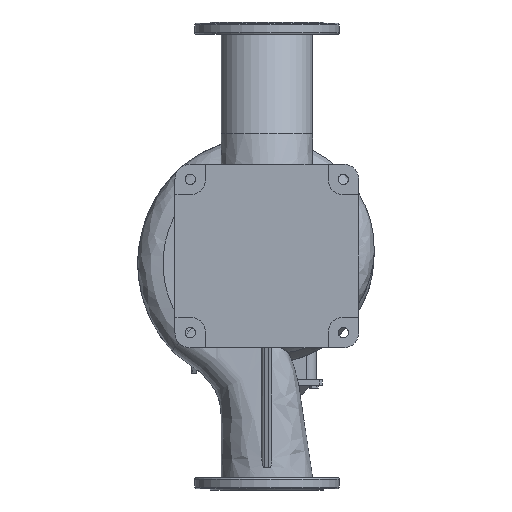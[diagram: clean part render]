
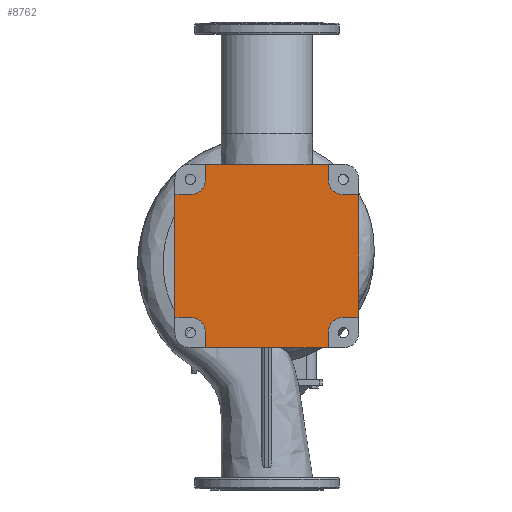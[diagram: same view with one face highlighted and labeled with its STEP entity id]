
A CAD part, front view. The second image highlights one B-rep face of the part: STEP entity #8762.
In plain terms, the highlighted planar face has unit normal (0, -1, 0).
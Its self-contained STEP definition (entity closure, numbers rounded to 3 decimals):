
#141 = ORIENTED_EDGE ( 'NONE', *, *, #16764, .T. ) ;
#540 = CARTESIAN_POINT ( 'NONE',  ( -216., -265., -144. ) ) ;
#648 = VECTOR ( 'NONE', #9492, 1000. ) ;
#1222 = EDGE_CURVE ( 'NONE', #72902, #64871, #8562, .T. ) ;
#1478 = ORIENTED_EDGE ( 'NONE', *, *, #46958, .T. ) ;
#2044 = CARTESIAN_POINT ( 'NONE',  ( -144., -265., 180. ) ) ;
#2209 = CARTESIAN_POINT ( 'NONE',  ( 144., -265., -180. ) ) ;
#2409 = DIRECTION ( 'NONE',  ( 0., 0., -1. ) ) ;
#2689 = DIRECTION ( 'NONE',  ( 1., 0., 0. ) ) ;
#2863 = ORIENTED_EDGE ( 'NONE', *, *, #48395, .T. ) ;
#3272 = LINE ( 'NONE', #14905, #3422 ) ;
#3422 = VECTOR ( 'NONE', #55136, 1000. ) ;
#4031 = ORIENTED_EDGE ( 'NONE', *, *, #42637, .T. ) ;
#4247 = CARTESIAN_POINT ( 'NONE',  ( -180., -265., -144. ) ) ;
#4463 = VECTOR ( 'NONE', #64772, 1000. ) ;
#5236 = VERTEX_POINT ( 'NONE', #66631 ) ;
#5744 = DIRECTION ( 'NONE',  ( 0., 0., 1. ) ) ;
#7208 = CIRCLE ( 'NONE', #51654, 36. ) ;
#7568 = LINE ( 'NONE', #30151, #65415 ) ;
#8148 = CARTESIAN_POINT ( 'NONE',  ( -144., -265., -180. ) ) ;
#8562 = LINE ( 'NONE', #2209, #65168 ) ;
#8762 = ADVANCED_FACE ( 'NONE', ( #53383 ), #63898, .F. ) ;
#8951 = VECTOR ( 'NONE', #70892, 1000. ) ;
#9184 = DIRECTION ( 'NONE',  ( -1., 0., 0. ) ) ;
#9423 = CARTESIAN_POINT ( 'NONE',  ( 180., -265., 180. ) ) ;
#9492 = DIRECTION ( 'NONE',  ( 1., 0., 0. ) ) ;
#9500 = ORIENTED_EDGE ( 'NONE', *, *, #50836, .T. ) ;
#9916 = CIRCLE ( 'NONE', #56772, 36. ) ;
#11393 = DIRECTION ( 'NONE',  ( 0., 1., 0. ) ) ;
#11773 = AXIS2_PLACEMENT_3D ( 'NONE', #9423, #45126, #22175 ) ;
#12019 = EDGE_CURVE ( 'NONE', #17715, #5236, #37479, .T. ) ;
#12107 = CARTESIAN_POINT ( 'NONE',  ( -216., -265., -144. ) ) ;
#12406 = DIRECTION ( 'NONE',  ( 1., 0., 0. ) ) ;
#12974 = CARTESIAN_POINT ( 'NONE',  ( 144., -265., -216. ) ) ;
#13169 = VERTEX_POINT ( 'NONE', #26772 ) ;
#13557 = CARTESIAN_POINT ( 'NONE',  ( -180., -265., 144. ) ) ;
#13855 = DIRECTION ( 'NONE',  ( 0., 0., 1. ) ) ;
#14590 = DIRECTION ( 'NONE',  ( 0., 0., 1. ) ) ;
#14812 = EDGE_CURVE ( 'NONE', #48509, #39281, #62266, .T. ) ;
#14863 = CARTESIAN_POINT ( 'NONE',  ( 216., -265., -144. ) ) ;
#14905 = CARTESIAN_POINT ( 'NONE',  ( 144., -265., 180. ) ) ;
#15273 = CARTESIAN_POINT ( 'NONE',  ( 144., -265., 180. ) ) ;
#16764 = EDGE_CURVE ( 'NONE', #13169, #46305, #35131, .T. ) ;
#17314 = ORIENTED_EDGE ( 'NONE', *, *, #61451, .T. ) ;
#17715 = VERTEX_POINT ( 'NONE', #54300 ) ;
#18176 = CARTESIAN_POINT ( 'NONE',  ( -144., -265., 180. ) ) ;
#18386 = CARTESIAN_POINT ( 'NONE',  ( -180., -265., 180. ) ) ;
#18787 = CARTESIAN_POINT ( 'NONE',  ( -180., -265., -180. ) ) ;
#18913 = LINE ( 'NONE', #540, #56842 ) ;
#19600 = EDGE_CURVE ( 'NONE', #5236, #72902, #30933, .T. ) ;
#19620 = VECTOR ( 'NONE', #9184, 1000. ) ;
#19962 = AXIS2_PLACEMENT_3D ( 'NONE', #18787, #59022, #12406 ) ;
#20333 = CARTESIAN_POINT ( 'NONE',  ( -216., -265., 144. ) ) ;
#21491 = VERTEX_POINT ( 'NONE', #12107 ) ;
#21509 = LINE ( 'NONE', #4247, #648 ) ;
#21764 = ORIENTED_EDGE ( 'NONE', *, *, #50742, .T. ) ;
#21925 = AXIS2_PLACEMENT_3D ( 'NONE', #39964, #22280, #5744 ) ;
#22175 = DIRECTION ( 'NONE',  ( 0., 0., 1. ) ) ;
#22280 = DIRECTION ( 'NONE',  ( 0., 1., 0. ) ) ;
#23049 = CARTESIAN_POINT ( 'NONE',  ( -180., -265., -180. ) ) ;
#23895 = VECTOR ( 'NONE', #38221, 1000. ) ;
#26772 = CARTESIAN_POINT ( 'NONE',  ( -144., -265., 216. ) ) ;
#27779 = ORIENTED_EDGE ( 'NONE', *, *, #65308, .T. ) ;
#30151 = CARTESIAN_POINT ( 'NONE',  ( 180., -265., 144. ) ) ;
#30315 = CARTESIAN_POINT ( 'NONE',  ( -144., -265., 216. ) ) ;
#30933 = LINE ( 'NONE', #53871, #4463 ) ;
#31513 = DIRECTION ( 'NONE',  ( 0., 1., 0. ) ) ;
#31779 = LINE ( 'NONE', #30315, #8951 ) ;
#31975 = CARTESIAN_POINT ( 'NONE',  ( 180., -265., -144. ) ) ;
#32194 = ORIENTED_EDGE ( 'NONE', *, *, #14812, .T. ) ;
#32510 = CARTESIAN_POINT ( 'NONE',  ( -180., -265., 144. ) ) ;
#33094 = CARTESIAN_POINT ( 'NONE',  ( 216., -265., 144. ) ) ;
#35131 = LINE ( 'NONE', #2044, #57000 ) ;
#35783 = DIRECTION ( 'NONE',  ( -1., 0., 0. ) ) ;
#36295 = VERTEX_POINT ( 'NONE', #31975 ) ;
#37479 = LINE ( 'NONE', #8148, #23895 ) ;
#38221 = DIRECTION ( 'NONE',  ( 0., 0., -1. ) ) ;
#39281 = VERTEX_POINT ( 'NONE', #33094 ) ;
#39964 = CARTESIAN_POINT ( 'NONE',  ( 180., -265., -180. ) ) ;
#41257 = VERTEX_POINT ( 'NONE', #52832 ) ;
#41696 = ORIENTED_EDGE ( 'NONE', *, *, #73213, .T. ) ;
#41813 = CARTESIAN_POINT ( 'NONE',  ( 180., -265., -144. ) ) ;
#42637 = EDGE_CURVE ( 'NONE', #46305, #64469, #7208, .T. ) ;
#43418 = LINE ( 'NONE', #32510, #19620 ) ;
#45126 = DIRECTION ( 'NONE',  ( 0., 1., 0. ) ) ;
#45987 = DIRECTION ( 'NONE',  ( 0., 0., 1. ) ) ;
#46305 = VERTEX_POINT ( 'NONE', #18176 ) ;
#46958 = EDGE_CURVE ( 'NONE', #52732, #21491, #18913, .T. ) ;
#47281 = ORIENTED_EDGE ( 'NONE', *, *, #63163, .T. ) ;
#47527 = ORIENTED_EDGE ( 'NONE', *, *, #19600, .T. ) ;
#47673 = VERTEX_POINT ( 'NONE', #60640 ) ;
#47792 = CIRCLE ( 'NONE', #11773, 36. ) ;
#48395 = EDGE_CURVE ( 'NONE', #47673, #13169, #31779, .T. ) ;
#48509 = VERTEX_POINT ( 'NONE', #14863 ) ;
#50742 = EDGE_CURVE ( 'NONE', #36295, #48509, #52713, .T. ) ;
#50836 = EDGE_CURVE ( 'NONE', #39281, #53780, #7568, .T. ) ;
#51006 = CARTESIAN_POINT ( 'NONE',  ( 216., -265., 144. ) ) ;
#51654 = AXIS2_PLACEMENT_3D ( 'NONE', #18386, #31513, #13855 ) ;
#51719 = CARTESIAN_POINT ( 'NONE',  ( 180., -265., 144. ) ) ;
#52713 = LINE ( 'NONE', #41813, #69011 ) ;
#52732 = VERTEX_POINT ( 'NONE', #20333 ) ;
#52832 = CARTESIAN_POINT ( 'NONE',  ( -180., -265., -144. ) ) ;
#52900 = EDGE_CURVE ( 'NONE', #53780, #53629, #47792, .T. ) ;
#53383 = FACE_OUTER_BOUND ( 'NONE', #70888, .T. ) ;
#53629 = VERTEX_POINT ( 'NONE', #15273 ) ;
#53683 = EDGE_CURVE ( 'NONE', #53629, #47673, #3272, .T. ) ;
#53780 = VERTEX_POINT ( 'NONE', #51719 ) ;
#53871 = CARTESIAN_POINT ( 'NONE',  ( 144., -265., -216. ) ) ;
#54300 = CARTESIAN_POINT ( 'NONE',  ( -144., -265., -180. ) ) ;
#54609 = ORIENTED_EDGE ( 'NONE', *, *, #12019, .T. ) ;
#55136 = DIRECTION ( 'NONE',  ( 0., 0., 1. ) ) ;
#56642 = DIRECTION ( 'NONE',  ( 0., 0., 1. ) ) ;
#56772 = AXIS2_PLACEMENT_3D ( 'NONE', #23049, #11393, #45987 ) ;
#56842 = VECTOR ( 'NONE', #69311, 1000. ) ;
#57000 = VECTOR ( 'NONE', #2409, 1000. ) ;
#58263 = VECTOR ( 'NONE', #56642, 1000. ) ;
#59022 = DIRECTION ( 'NONE',  ( 0., 1., 0. ) ) ;
#60640 = CARTESIAN_POINT ( 'NONE',  ( 144., -265., 216. ) ) ;
#61451 = EDGE_CURVE ( 'NONE', #64871, #36295, #71157, .T. ) ;
#62266 = LINE ( 'NONE', #51006, #58263 ) ;
#63163 = EDGE_CURVE ( 'NONE', #64469, #52732, #43418, .T. ) ;
#63898 = PLANE ( 'NONE',  #19962 ) ;
#64469 = VERTEX_POINT ( 'NONE', #13557 ) ;
#64772 = DIRECTION ( 'NONE',  ( 1., 0., 0. ) ) ;
#64871 = VERTEX_POINT ( 'NONE', #72752 ) ;
#65168 = VECTOR ( 'NONE', #14590, 1000. ) ;
#65308 = EDGE_CURVE ( 'NONE', #21491, #41257, #21509, .T. ) ;
#65415 = VECTOR ( 'NONE', #35783, 1000. ) ;
#66631 = CARTESIAN_POINT ( 'NONE',  ( -144., -265., -216. ) ) ;
#67109 = ORIENTED_EDGE ( 'NONE', *, *, #52900, .T. ) ;
#69011 = VECTOR ( 'NONE', #2689, 1000. ) ;
#69311 = DIRECTION ( 'NONE',  ( 0., 0., -1. ) ) ;
#70888 = EDGE_LOOP ( 'NONE', ( #41696, #54609, #47527, #73452, #17314, #21764, #32194, #9500, #67109, #74325, #2863, #141, #4031, #47281, #1478, #27779 ) ) ;
#70892 = DIRECTION ( 'NONE',  ( -1., 0., 0. ) ) ;
#71157 = CIRCLE ( 'NONE', #21925, 36. ) ;
#72752 = CARTESIAN_POINT ( 'NONE',  ( 144., -265., -180. ) ) ;
#72902 = VERTEX_POINT ( 'NONE', #12974 ) ;
#73213 = EDGE_CURVE ( 'NONE', #41257, #17715, #9916, .T. ) ;
#73452 = ORIENTED_EDGE ( 'NONE', *, *, #1222, .T. ) ;
#74325 = ORIENTED_EDGE ( 'NONE', *, *, #53683, .T. ) ;
